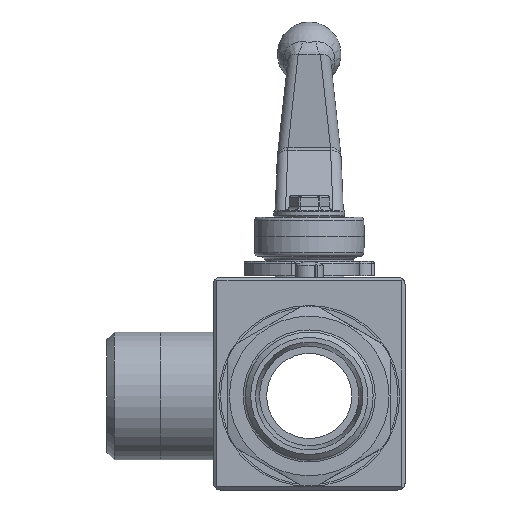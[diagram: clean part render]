
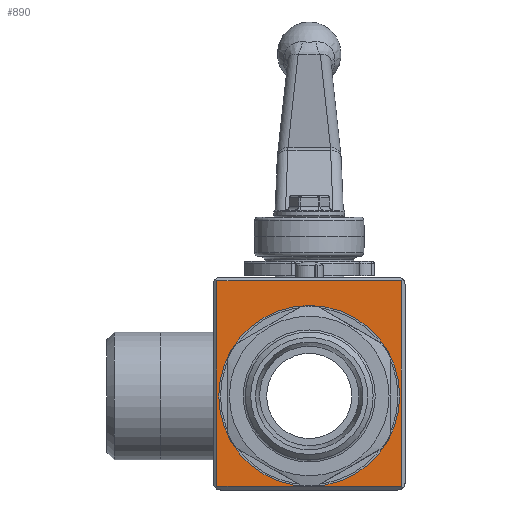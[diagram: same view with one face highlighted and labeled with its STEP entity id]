
A CAD part, front view. The second image highlights one B-rep face of the part: STEP entity #890.
In plain terms, the highlighted planar face has unit normal (0, -1, 0).
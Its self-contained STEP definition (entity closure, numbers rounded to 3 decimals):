
#890 = ADVANCED_FACE( '', ( #1906 ), #1907, .T. );
#1906 = FACE_OUTER_BOUND( '', #3581, .T. );
#1907 = PLANE( '', #3582 );
#3581 = EDGE_LOOP( '', ( #6035, #6036, #6037, #6038, #6039, #6040 ) );
#3582 = AXIS2_PLACEMENT_3D( '', #6041, #6042, #6043 );
#6035 = ORIENTED_EDGE( '', *, *, #8341, .T. );
#6036 = ORIENTED_EDGE( '', *, *, #8631, .T. );
#6037 = ORIENTED_EDGE( '', *, *, #8632, .F. );
#6038 = ORIENTED_EDGE( '', *, *, #8633, .T. );
#6039 = ORIENTED_EDGE( '', *, *, #8634, .T. );
#6040 = ORIENTED_EDGE( '', *, *, #8344, .T. );
#6041 = CARTESIAN_POINT( '', ( -27., -33.1, -26.5 ) );
#6042 = DIRECTION( '', ( 0., -1., 0. ) );
#6043 = DIRECTION( '', ( 0., 0., -1. ) );
#8341 = EDGE_CURVE( '', #9813, #9819, #9821, .T. );
#8344 = EDGE_CURVE( '', #9825, #9813, #9826, .T. );
#8631 = EDGE_CURVE( '', #9819, #10265, #10266, .T. );
#8632 = EDGE_CURVE( '', #10265, #10265, #10267, .T. );
#8633 = EDGE_CURVE( '', #10265, #10268, #10269, .T. );
#8634 = EDGE_CURVE( '', #10268, #9825, #10270, .T. );
#9813 = VERTEX_POINT( '', #12276 );
#9819 = VERTEX_POINT( '', #12284 );
#9821 = LINE( '', #12287, #12288 );
#9825 = VERTEX_POINT( '', #12293 );
#9826 = LINE( '', #12294, #12295 );
#10265 = VERTEX_POINT( '', #13145 );
#10266 = LINE( '', #13146, #13147 );
#10267 = CIRCLE( '', #13148, 25.5 );
#10268 = VERTEX_POINT( '', #13149 );
#10269 = LINE( '', #13150, #13151 );
#10270 = LINE( '', #13152, #13153 );
#12276 = CARTESIAN_POINT( '', ( -26., -33.1, 32.5 ) );
#12284 = CARTESIAN_POINT( '', ( -26., -33.1, -25.5 ) );
#12287 = CARTESIAN_POINT( '', ( -26., -33.1, -26.5 ) );
#12288 = VECTOR( '', #14723, 1000. );
#12293 = CARTESIAN_POINT( '', ( 26., -33.1, 32.5 ) );
#12294 = CARTESIAN_POINT( '', ( -27., -33.1, 32.5 ) );
#12295 = VECTOR( '', #14725, 1000. );
#13145 = CARTESIAN_POINT( '', ( 0., -33.1, -25.5 ) );
#13146 = CARTESIAN_POINT( '', ( 27., -33.1, -25.5 ) );
#13147 = VECTOR( '', #15129, 1000. );
#13148 = AXIS2_PLACEMENT_3D( '', #15130, #15131, #15132 );
#13149 = CARTESIAN_POINT( '', ( 26., -33.1, -25.5 ) );
#13150 = CARTESIAN_POINT( '', ( 27., -33.1, -25.5 ) );
#13151 = VECTOR( '', #15133, 1000. );
#13152 = CARTESIAN_POINT( '', ( 26., -33.1, 33.5 ) );
#13153 = VECTOR( '', #15134, 1000. );
#14723 = DIRECTION( '', ( 0., 0., -1. ) );
#14725 = DIRECTION( '', ( -1., 0., 0. ) );
#15129 = DIRECTION( '', ( 1., 0., 0. ) );
#15130 = CARTESIAN_POINT( '', ( 0., -33.1, 0. ) );
#15131 = DIRECTION( '', ( 0., -1., 0. ) );
#15132 = DIRECTION( '', ( 1., 0., 0. ) );
#15133 = DIRECTION( '', ( 1., 0., 0. ) );
#15134 = DIRECTION( '', ( 0., 0., 1. ) );
